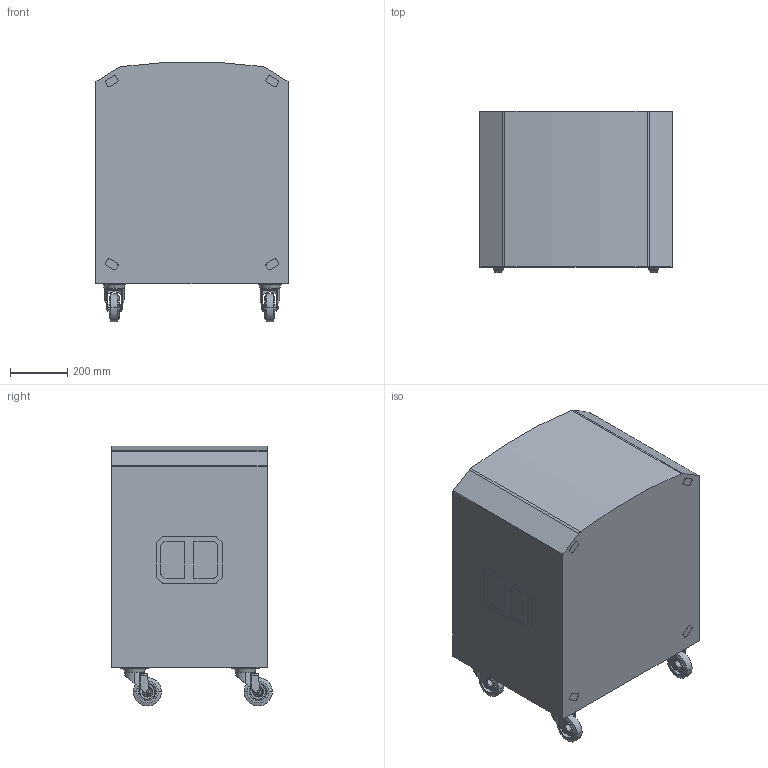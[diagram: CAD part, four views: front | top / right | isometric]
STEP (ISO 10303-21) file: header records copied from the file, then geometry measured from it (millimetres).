
FILE_DESCRIPTION (( 'STEP AP203' ), '1' );
FILE_NAME ('ETX 18SP_SIMPLIFIED.STEP', '2018-02-21T20:47:58', ( '' ), ( '' ), 'SwSTEP 2.0', 'SolidWorks 2016', '' );
FILE_SCHEMA (( 'CONFIG_CONTROL_DESIGN' ));
Length unit declared in the file: millimetre
Products named in the file (2): ETX 18SP_SIMPLIFIED
Bounding box: 674.35 x 561.14 x 907.55 mm (x, y, z)
Volume: 279432408.6 mm3; surface area: 2822198.9 mm2
Topology: 5 solids, 5 shells, 672 faces, 1810 edges, 1180 vertices
Faces by surface type: plane 243, cylinder 221, bspline 152, cone 56
Entity records: 26895 total; most frequent: CARTESIAN_POINT 10736, ORIENTED_EDGE 3612, DIRECTION 3108, EDGE_CURVE 1806, VERTEX_POINT 1180, AXIS2_PLACEMENT_3D 1128, VECTOR 852, LINE 852
